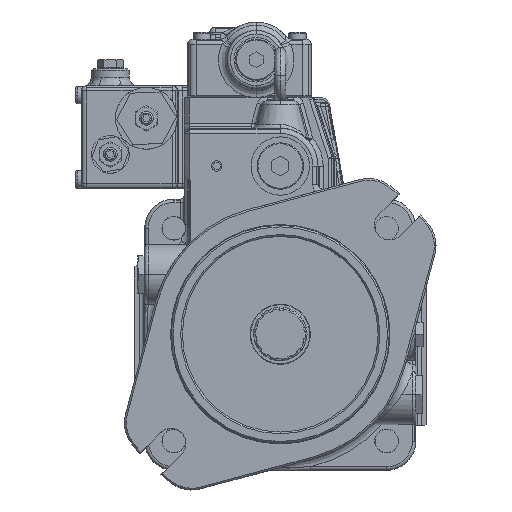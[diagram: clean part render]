
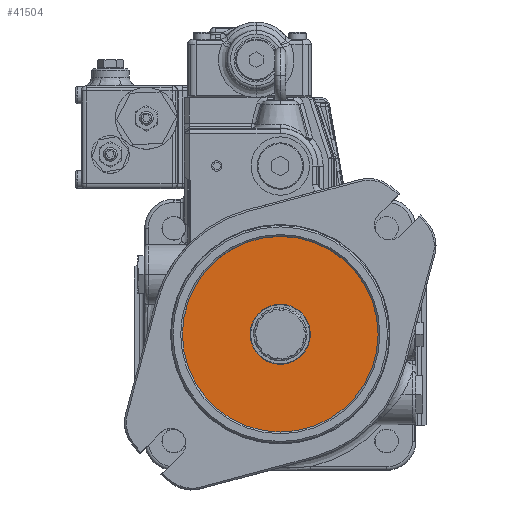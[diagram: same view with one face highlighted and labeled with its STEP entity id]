
A CAD part, top view. The second image highlights one B-rep face of the part: STEP entity #41504.
In plain terms, the highlighted planar face has unit normal (0, 0, 1).
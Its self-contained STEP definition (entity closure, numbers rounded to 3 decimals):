
#4542=CARTESIAN_POINT('',(-57.0,0.,11.7));
#4543=VERTEX_POINT('',#4542);
#4552=CARTESIAN_POINT('',(57.0,0.,11.7));
#4553=VERTEX_POINT('',#4552);
#4554=CARTESIAN_POINT('',(0.0,0.0,11.7));
#4555=DIRECTION('',(0.0,0.0,1.0));
#4556=DIRECTION('',(-1.0,0.0,0.0));
#4557=AXIS2_PLACEMENT_3D('',#4554,#4555,#4556);
#4558=CIRCLE('',#4557,57.0);
#4559=EDGE_CURVE('',#4553,#4543,#4558,.T.);
#10087=CARTESIAN_POINT('',(10.253,-14.182,11.7));
#10088=VERTEX_POINT('',#10087);
#10102=CARTESIAN_POINT('',(-10.253,14.182,11.7));
#10103=VERTEX_POINT('',#10102);
#10110=CARTESIAN_POINT('',(0.,0.,11.7));
#10111=DIRECTION('',(0.,0.,-1.0));
#10112=DIRECTION('',(0.586,-0.81,0.));
#10113=AXIS2_PLACEMENT_3D('',#10110,#10111,#10112);
#10114=CIRCLE('',#10113,17.5);
#10115=EDGE_CURVE('',#10088,#10103,#10114,.T.);
#33420=CARTESIAN_POINT('',(0.,0.,11.7));
#33421=DIRECTION('',(0.,0.,-1.0));
#33422=DIRECTION('',(0.586,-0.81,0.));
#33423=AXIS2_PLACEMENT_3D('',#33420,#33421,#33422);
#33424=CIRCLE('',#33423,17.5);
#33425=EDGE_CURVE('',#10103,#10088,#33424,.T.);
#41485=CARTESIAN_POINT('',(0.0,0.0,11.7));
#41486=DIRECTION('',(0.0,0.0,-1.0));
#41487=DIRECTION('',(-1.0,0.0,0.0));
#41488=AXIS2_PLACEMENT_3D('',#41485,#41486,#41487);
#41489=PLANE('',#41488);
#41490=ORIENTED_EDGE('',*,*,#4559,.T.);
#41491=CARTESIAN_POINT('',(0.0,0.0,11.7));
#41492=DIRECTION('',(0.0,0.0,1.0));
#41493=DIRECTION('',(-1.0,0.0,0.0));
#41494=AXIS2_PLACEMENT_3D('',#41491,#41492,#41493);
#41495=CIRCLE('',#41494,57.0);
#41496=EDGE_CURVE('',#4543,#4553,#41495,.T.);
#41497=ORIENTED_EDGE('',*,*,#41496,.T.);
#41498=EDGE_LOOP('',(#41490,#41497));
#41499=FACE_OUTER_BOUND('',#41498,.T.);
#41500=ORIENTED_EDGE('',*,*,#33425,.T.);
#41501=ORIENTED_EDGE('',*,*,#10115,.T.);
#41502=EDGE_LOOP('',(#41500,#41501));
#41503=FACE_BOUND('',#41502,.T.);
#41504=ADVANCED_FACE('',(#41499,#41503),#41489,.F.);
